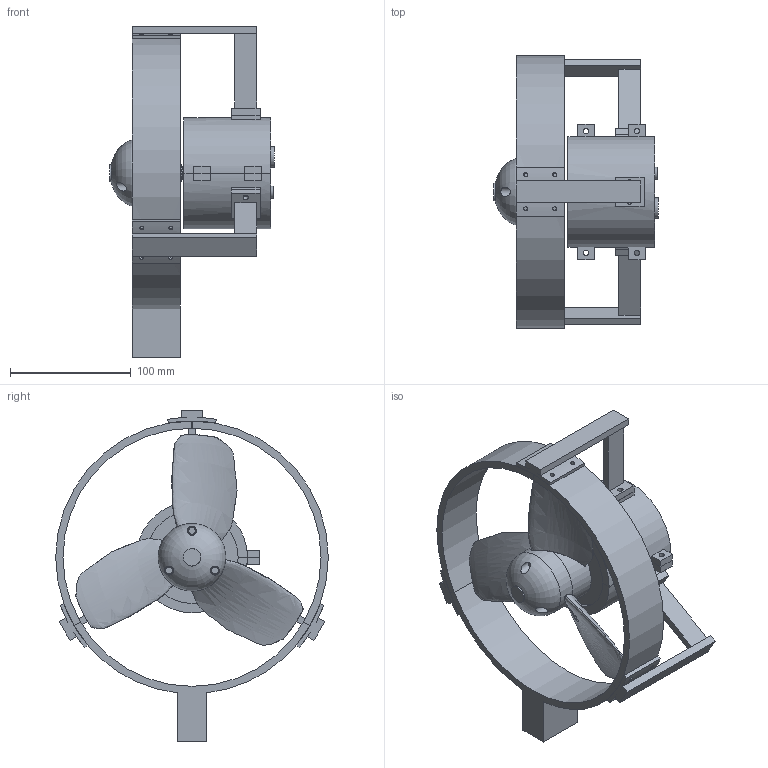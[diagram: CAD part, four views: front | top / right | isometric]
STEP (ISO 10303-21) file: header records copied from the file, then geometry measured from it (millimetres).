
FILE_DESCRIPTION(('Open CASCADE Model'),'2;1');
FILE_NAME('Open CASCADE Shape Model','2026-11-02T23:22:41',('Author'),( 'Open CASCADE'),'Open CASCADE STEP processor 7.9','Open CASCADE 7.9' ,'Unknown');
FILE_SCHEMA(('AUTOMOTIVE_DESIGN { 1 0 10303 214 1 1 1 1 }'));
Length unit declared in the file: millimetre
Products named in the file (38): v4_lowflow_A; nose_plug; hub_front; hub_rear; blade_0; bolt_0; blade_1; bolt_1; blade_2; bolt_2; rotor_shaft; hub_washer; circlip_A; hub_screw; stub_shaft; front_cap; oring_front; iring; lip_seal; bearing; circlip; tube; dog_hub; coupling_pin; drive_disc; motor; rear_cap; oring_rear; wetlink; vent; shell_top; shell_bot; strut_0; strut_1; strut_2; duct_0; duct_1; duct_2
Assembly tree (37 placements, depth 2):
  v4_lowflow_A
    nose_plug
    hub_front
    hub_rear
    blade_0
    bolt_0
    blade_1
    bolt_1
    blade_2
    bolt_2
    rotor_shaft
    hub_washer
    circlip_A
    hub_screw
    stub_shaft
    front_cap
    oring_front
    iring
    lip_seal
    bearing
    circlip
    tube
    dog_hub
    coupling_pin
    drive_disc
    motor
    rear_cap
    oring_rear
    wetlink
    vent
    shell_top
    shell_bot
    strut_0
    strut_1
    strut_2
    duct_0
    duct_1
    duct_2
Bounding box: 136.4 x 226 x 275 mm (x, y, z)
Volume: 808840.4 mm3; surface area: 307657.9 mm2
Topology: 37 solids, 37 shells, 498 faces, 1040 edges, 689 vertices
Faces by surface type: plane 260, cylinder 190, bspline 45, torus 2, revolution 1
Full cylindrical faces by diameter (mm): 2.5 x8, 3 x8, 3.05 x1, 3.1 x3, 3.4 x25, 4 x12, 4.4 x14, 5 x1, 5.05 x1, 5.2 x1, 5.5 x4, 5.6 x6, 6 x6, 6.02 x1, 7 x6, 7.5 x7, 7.6 x4, 8 x6, 8.2 x1, 8.4 x1, 9.9 x1, 10 x2, 11 x2, 12 x2, 13 x1, 14 x1, 14.4 x1, 14.5 x1, 16.2 x1, 17 x1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
Entity records: 81080 total; most frequent: CARTESIAN_POINT 59134, DIRECTION 3741, ORIENTED_EDGE 2080, PCURVE 2080, DEFINITIONAL_REPRESENTATION 2080, LINE 1784, VECTOR 1784, EDGE_CURVE 1040
